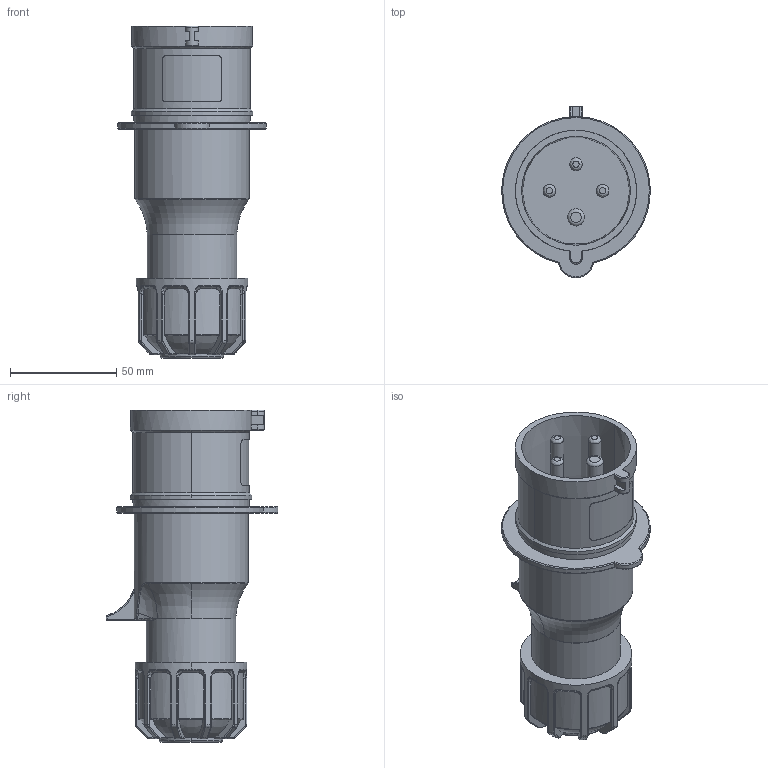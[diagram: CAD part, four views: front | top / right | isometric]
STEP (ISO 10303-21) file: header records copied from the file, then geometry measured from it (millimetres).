
FILE_DESCRIPTION(('FreeCAD Model'),'2;1');
FILE_NAME('Open CASCADE Shape Model','2026-02-04T09:40:56',(''),(''), 'Open CASCADE STEP processor 7.8','FreeCAD','Unknown');
FILE_SCHEMA(('AUTOMOTIVE_DESIGN { 1 0 10303 214 1 1 1 1 }'));
Length unit declared in the file: millimetre
Products named in the file (7): TL3P32443; Tomada; Pino L3; Pino Terra; Pino L2; Pino L1; Prensa cabo
Assembly tree (6 placements, depth 2):
  TL3P32443
    Tomada
    Pino L3
    Pino Terra
    Pino L2
    Pino L1
    Prensa cabo
Bounding box: 69.96 x 80.9 x 156.2 mm (x, y, z)
Volume: 230981.8 mm3; surface area: 54229.7 mm2
Topology: 6 solids, 11 shells, 441 faces, 1050 edges, 635 vertices
Faces by surface type: bspline 143, plane 104, cylinder 100, torus 62, cone 26, sphere 6
Full cylindrical faces by diameter (mm): 6 x3, 8 x1, 42 x1, 53.7 x1, 54.7 x1
Entity records: 22187 total; most frequent: CARTESIAN_POINT 12969, ORIENTED_EDGE 2100, DIRECTION 1640, EDGE_CURVE 1050, AXIS2_PLACEMENT_3D 703, VERTEX_POINT 635, FACE_BOUND 447, EDGE_LOOP 447
